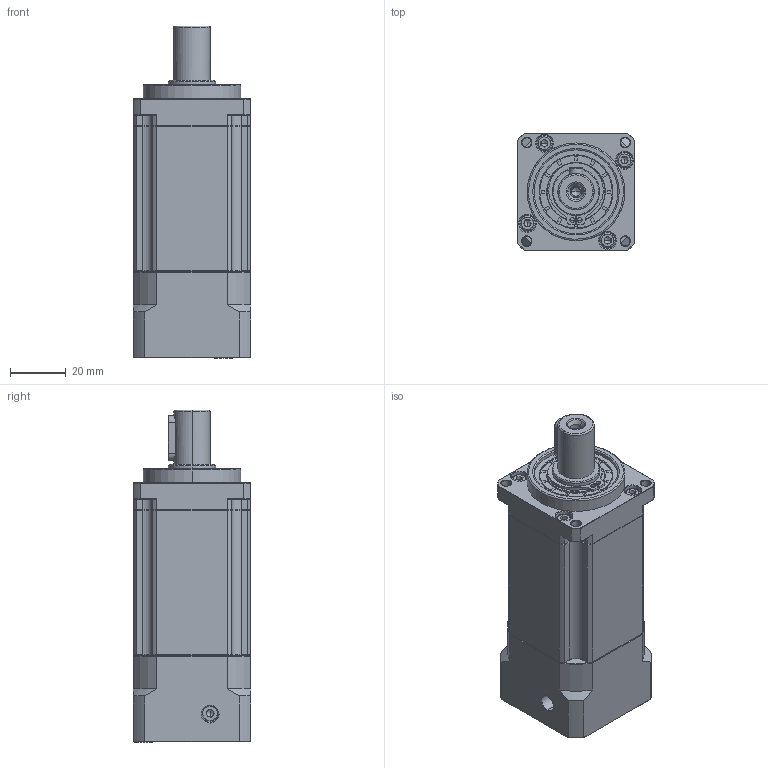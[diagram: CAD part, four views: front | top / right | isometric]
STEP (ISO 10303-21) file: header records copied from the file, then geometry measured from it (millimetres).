
FILE_DESCRIPTION (( 'STEP AP214' ), '1' );
FILE_NAME ('ZB040-L3-P2-8-30-45-M3.STEP', '2023-06-06T12:50:09', ( 'Windows 蚚誧' ), ( 'Organization' ), 'SwSTEP 2.0', 'SolidWorks 2016', '' );
FILE_SCHEMA (( 'AUTOMOTIVE_DESIGN' ));
Length unit declared in the file: millimetre
Products named in the file (1): ZB040-L3-P2-8-30-45-M3
Bounding box: 42 x 42 x 119 mm (x, y, z)
Volume: 148177 mm3; surface area: 31437.8 mm2
Topology: 6 solids, 6 shells, 1711 faces, 4429 edges, 2806 vertices
Faces by surface type: plane 675, cylinder 431, cone 303, bspline 282, torus 20
Entity records: 93578 total; most frequent: CARTESIAN_POINT 35660, ORIENTED_EDGE 8798, DIRECTION 7091, EDGE_CURVE 4399, VERTEX_POINT 2806, LINE 2447, VECTOR 2447, AXIS2_PLACEMENT_3D 2322
